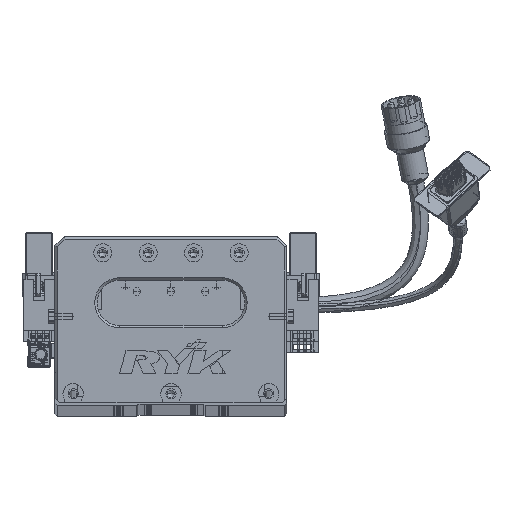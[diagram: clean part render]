
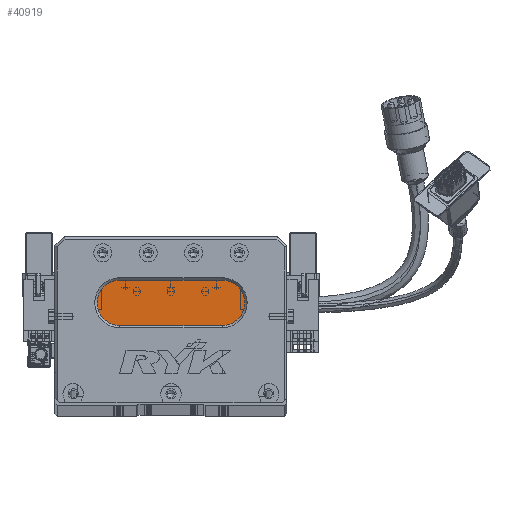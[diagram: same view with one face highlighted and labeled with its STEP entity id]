
A CAD part, top view. The second image highlights one B-rep face of the part: STEP entity #40919.
In plain terms, the highlighted planar face has unit normal (0, 0, 1) as drawn and (0, 0, -1) by its records, which use the part's own axes.
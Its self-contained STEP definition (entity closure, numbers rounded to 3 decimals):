
#895 = DIRECTION ( 'NONE',  ( -1., 0., 0. ) ) ;
#2189 = VERTEX_POINT ( 'NONE', #29456 ) ;
#5192 = ORIENTED_EDGE ( 'NONE', *, *, #44276, .T. ) ;
#8818 = CARTESIAN_POINT ( 'NONE',  ( 18.5, 44., 13. ) ) ;
#12691 = EDGE_CURVE ( 'NONE', #22462, #13407, #14684, .T. ) ;
#12813 = CARTESIAN_POINT ( 'NONE',  ( 28.5, 44., 13. ) ) ;
#13407 = VERTEX_POINT ( 'NONE', #43091 ) ;
#13869 = ORIENTED_EDGE ( 'NONE', *, *, #12691, .T. ) ;
#14684 = LINE ( 'NONE', #83083, #64660 ) ;
#15673 = DIRECTION ( 'NONE',  ( 1., 0., 0. ) ) ;
#15846 = CARTESIAN_POINT ( 'NONE',  ( 73.5, 44., 13. ) ) ;
#16137 = DIRECTION ( 'NONE',  ( -1., 0., 0. ) ) ;
#17870 = EDGE_CURVE ( 'NONE', #13407, #2189, #85145, .T. ) ;
#20553 = AXIS2_PLACEMENT_3D ( 'NONE', #60106, #44904, #72285 ) ;
#21372 = CARTESIAN_POINT ( 'NONE',  ( 73.5, 34., 13. ) ) ;
#22462 = VERTEX_POINT ( 'NONE', #37147 ) ;
#25550 = CIRCLE ( 'NONE', #20553, 10. ) ;
#26808 = DIRECTION ( 'NONE',  ( -1., 0., 0. ) ) ;
#29408 = DIRECTION ( 'NONE',  ( 0., 0., -1. ) ) ;
#29456 = CARTESIAN_POINT ( 'NONE',  ( 73.5, 34., 13. ) ) ;
#37147 = CARTESIAN_POINT ( 'NONE',  ( 28.5, 54., 13. ) ) ;
#37682 = AXIS2_PLACEMENT_3D ( 'NONE', #12813, #39772, #46587 ) ;
#39772 = DIRECTION ( 'NONE',  ( 0., 0., -1. ) ) ;
#40919 = ADVANCED_FACE ( 'NONE', ( #58046 ), #49900, .T. ) ;
#41491 = LINE ( 'NONE', #21372, #85139 ) ;
#43091 = CARTESIAN_POINT ( 'NONE',  ( 73.5, 54., 13. ) ) ;
#44276 = EDGE_CURVE ( 'NONE', #2189, #50333, #41491, .T. ) ;
#44904 = DIRECTION ( 'NONE',  ( 0., 0., -1. ) ) ;
#45103 = CIRCLE ( 'NONE', #37682, 10. ) ;
#46587 = DIRECTION ( 'NONE',  ( -1., 0., 0. ) ) ;
#48678 = ORIENTED_EDGE ( 'NONE', *, *, #68391, .T. ) ;
#49900 = PLANE ( 'NONE',  #67029 ) ;
#50333 = VERTEX_POINT ( 'NONE', #72600 ) ;
#53533 = CARTESIAN_POINT ( 'NONE',  ( 73.5, 44., 13. ) ) ;
#58046 = FACE_OUTER_BOUND ( 'NONE', #65513, .T. ) ;
#60106 = CARTESIAN_POINT ( 'NONE',  ( 28.5, 44., 13. ) ) ;
#60596 = AXIS2_PLACEMENT_3D ( 'NONE', #53533, #67224, #26808 ) ;
#64660 = VECTOR ( 'NONE', #15673, 1000. ) ;
#65513 = EDGE_LOOP ( 'NONE', ( #78341, #5192, #48678, #67978, #13869 ) ) ;
#67029 = AXIS2_PLACEMENT_3D ( 'NONE', #15846, #29408, #16137 ) ;
#67224 = DIRECTION ( 'NONE',  ( 0., 0., -1. ) ) ;
#67978 = ORIENTED_EDGE ( 'NONE', *, *, #70770, .T. ) ;
#68391 = EDGE_CURVE ( 'NONE', #50333, #85483, #25550, .T. ) ;
#70770 = EDGE_CURVE ( 'NONE', #85483, #22462, #45103, .T. ) ;
#72285 = DIRECTION ( 'NONE',  ( -1., 0., 0. ) ) ;
#72600 = CARTESIAN_POINT ( 'NONE',  ( 28.5, 34., 13. ) ) ;
#78341 = ORIENTED_EDGE ( 'NONE', *, *, #17870, .T. ) ;
#83083 = CARTESIAN_POINT ( 'NONE',  ( 73.5, 54., 13. ) ) ;
#85139 = VECTOR ( 'NONE', #895, 1000. ) ;
#85145 = CIRCLE ( 'NONE', #60596, 10. ) ;
#85483 = VERTEX_POINT ( 'NONE', #8818 ) ;
